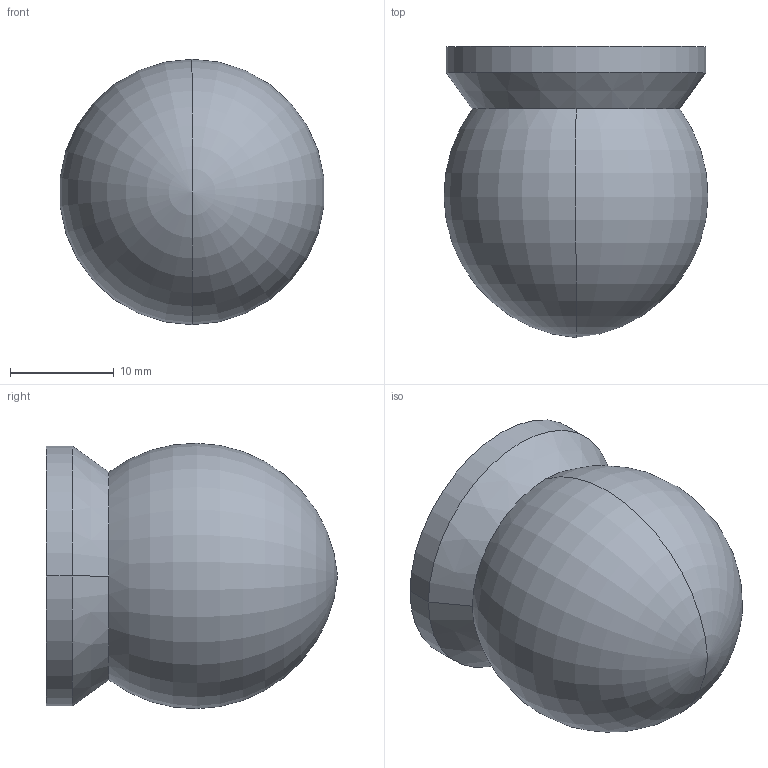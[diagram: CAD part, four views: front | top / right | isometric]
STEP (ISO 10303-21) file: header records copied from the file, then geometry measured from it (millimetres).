
FILE_DESCRIPTION( ( '' ), '1' );
FILE_NAME( 'C:/Documents and Settings/Nikhil/Desktop/Nik/Done/9070562.stp', '2013-10-23T10:41:52', ( '' ), ( '' ), ' ', ' ', ' ' );
FILE_SCHEMA( ( 'automotive_design' ) );
Length unit declared in the file: millimetre
Products named in the file (1): 1
Bounding box: 25.4 x 28 x 25.54 mm (x, y, z)
Volume: 10735.3 mm3; surface area: 2835.9 mm2
Topology: 1 solids, 1 shells, 10 faces, 22 edges, 13 vertices
Faces by surface type: cylinder 4, plane 2, cone 2, torus 2
Entity records: 539 total; most frequent: DIRECTION 56, STYLED_ITEM 44, PRESENTATION_STYLE_ASSIGNMENT 44, CARTESIAN_POINT 44, COLOUR_RGB 44, ORIENTED_EDGE 40, AXIS2_PLACEMENT_3D 25, EDGE_CURVE 20
